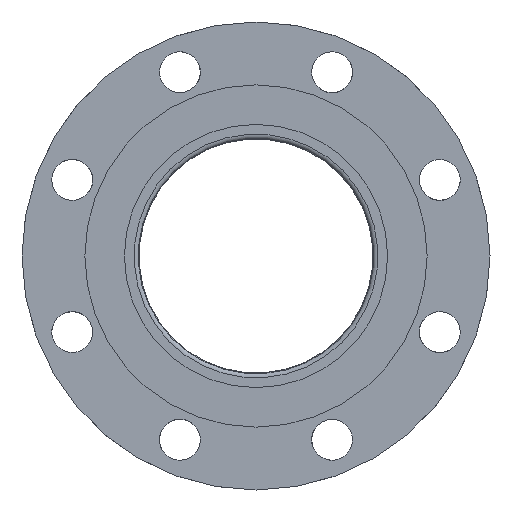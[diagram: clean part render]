
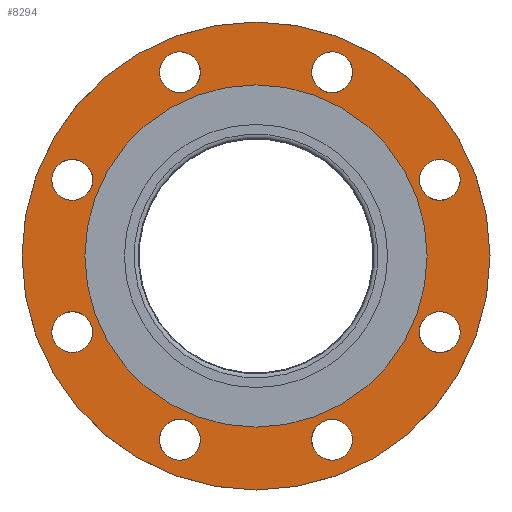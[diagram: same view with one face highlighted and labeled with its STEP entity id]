
A CAD part, front view. The second image highlights one B-rep face of the part: STEP entity #8294.
In plain terms, the highlighted planar face has unit normal (0, -1, 0) as drawn and (0, 1, 0) by its records, which use the part's own axes.
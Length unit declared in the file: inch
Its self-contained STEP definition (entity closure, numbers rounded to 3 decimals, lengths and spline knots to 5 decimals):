
#7955=CARTESIAN_POINT('',(-1.31705,0.6875,4.23585));
#7956=VERTEX_POINT('',#7955);
#7957=CARTESIAN_POINT('',(-1.6264,0.6875,3.92649));
#7958=DIRECTION('',(0.0,-1.0,0.0));
#7959=DIRECTION('',(0.707,0.0,0.707));
#7960=AXIS2_PLACEMENT_3D('',#7957,#7958,#7959);
#7961=CIRCLE('',#7960,0.4375);
#7962=EDGE_CURVE('',#7956,#7956,#7961,.T.);
#7983=CARTESIAN_POINT('',(-3.92649,0.6875,2.0639));
#7984=VERTEX_POINT('',#7983);
#7985=CARTESIAN_POINT('',(-3.92649,0.6875,1.6264));
#7986=DIRECTION('',(0.0,-1.0,0.0));
#7987=DIRECTION('',(0.0,0.0,1.0));
#7988=AXIS2_PLACEMENT_3D('',#7985,#7986,#7987);
#7989=CIRCLE('',#7988,0.4375);
#7990=EDGE_CURVE('',#7984,#7984,#7989,.T.);
#8011=CARTESIAN_POINT('',(-4.23585,0.6875,-1.31705));
#8012=VERTEX_POINT('',#8011);
#8013=CARTESIAN_POINT('',(-3.92649,0.6875,-1.6264));
#8014=DIRECTION('',(0.0,-1.0,0.0));
#8015=DIRECTION('',(-0.707,0.0,0.707));
#8016=AXIS2_PLACEMENT_3D('',#8013,#8014,#8015);
#8017=CIRCLE('',#8016,0.4375);
#8018=EDGE_CURVE('',#8012,#8012,#8017,.T.);
#8039=CARTESIAN_POINT('',(-2.0639,0.6875,-3.92649));
#8040=VERTEX_POINT('',#8039);
#8041=CARTESIAN_POINT('',(-1.6264,0.6875,-3.92649));
#8042=DIRECTION('',(0.0,-1.0,0.0));
#8043=DIRECTION('',(-1.0,0.0,0.0));
#8044=AXIS2_PLACEMENT_3D('',#8041,#8042,#8043);
#8045=CIRCLE('',#8044,0.4375);
#8046=EDGE_CURVE('',#8040,#8040,#8045,.T.);
#8067=CARTESIAN_POINT('',(1.31705,0.6875,-4.23585));
#8068=VERTEX_POINT('',#8067);
#8069=CARTESIAN_POINT('',(1.6264,0.6875,-3.92649));
#8070=DIRECTION('',(0.0,-1.0,0.0));
#8071=DIRECTION('',(-0.707,0.0,-0.707));
#8072=AXIS2_PLACEMENT_3D('',#8069,#8070,#8071);
#8073=CIRCLE('',#8072,0.4375);
#8074=EDGE_CURVE('',#8068,#8068,#8073,.T.);
#8095=CARTESIAN_POINT('',(3.92649,0.6875,-2.0639));
#8096=VERTEX_POINT('',#8095);
#8097=CARTESIAN_POINT('',(3.92649,0.6875,-1.6264));
#8098=DIRECTION('',(0.0,-1.0,0.0));
#8099=DIRECTION('',(0.0,0.0,-1.0));
#8100=AXIS2_PLACEMENT_3D('',#8097,#8098,#8099);
#8101=CIRCLE('',#8100,0.4375);
#8102=EDGE_CURVE('',#8096,#8096,#8101,.T.);
#8123=CARTESIAN_POINT('',(4.23585,0.6875,1.31705));
#8124=VERTEX_POINT('',#8123);
#8125=CARTESIAN_POINT('',(3.92649,0.6875,1.6264));
#8126=DIRECTION('',(0.0,-1.0,0.0));
#8127=DIRECTION('',(0.707,0.0,-0.707));
#8128=AXIS2_PLACEMENT_3D('',#8125,#8126,#8127);
#8129=CIRCLE('',#8128,0.4375);
#8130=EDGE_CURVE('',#8124,#8124,#8129,.T.);
#8151=CARTESIAN_POINT('',(2.0639,0.6875,3.92649));
#8152=VERTEX_POINT('',#8151);
#8153=CARTESIAN_POINT('',(1.6264,0.6875,3.92649));
#8154=DIRECTION('',(0.0,-1.0,0.0));
#8155=DIRECTION('',(1.0,0.0,0.0));
#8156=AXIS2_PLACEMENT_3D('',#8153,#8154,#8155);
#8157=CIRCLE('',#8156,0.4375);
#8158=EDGE_CURVE('',#8152,#8152,#8157,.T.);
#8179=CARTESIAN_POINT('',(3.65625,0.6875,0.));
#8180=VERTEX_POINT('',#8179);
#8181=CARTESIAN_POINT('',(0.0,0.6875,0.0));
#8182=DIRECTION('',(0.0,-1.0,0.0));
#8183=DIRECTION('',(-1.0,0.0,0.0));
#8184=AXIS2_PLACEMENT_3D('',#8181,#8182,#8183);
#8185=CIRCLE('',#8184,3.65625);
#8186=EDGE_CURVE('',#8180,#8180,#8185,.T.);
#8236=CARTESIAN_POINT('',(-5.0,0.6875,0.));
#8237=VERTEX_POINT('',#8236);
#8238=CARTESIAN_POINT('',(0.0,0.6875,0.0));
#8239=DIRECTION('',(0.0,-1.0,0.0));
#8240=DIRECTION('',(1.0,0.0,0.0));
#8241=AXIS2_PLACEMENT_3D('',#8238,#8239,#8240);
#8242=CIRCLE('',#8241,5.0);
#8243=EDGE_CURVE('',#8237,#8237,#8242,.T.);
#8259=CARTESIAN_POINT('',(0.0,0.6875,0.0));
#8260=DIRECTION('',(0.0,-1.0,0.0));
#8261=DIRECTION('',(0.0,0.0,-1.0));
#8262=AXIS2_PLACEMENT_3D('',#8259,#8260,#8261);
#8263=PLANE('',#8262);
#8264=ORIENTED_EDGE('',*,*,#8243,.F.);
#8265=EDGE_LOOP('',(#8264));
#8266=FACE_OUTER_BOUND('',#8265,.T.);
#8267=ORIENTED_EDGE('',*,*,#7962,.T.);
#8268=EDGE_LOOP('',(#8267));
#8269=FACE_BOUND('',#8268,.T.);
#8270=ORIENTED_EDGE('',*,*,#7990,.T.);
#8271=EDGE_LOOP('',(#8270));
#8272=FACE_BOUND('',#8271,.T.);
#8273=ORIENTED_EDGE('',*,*,#8018,.T.);
#8274=EDGE_LOOP('',(#8273));
#8275=FACE_BOUND('',#8274,.T.);
#8276=ORIENTED_EDGE('',*,*,#8046,.T.);
#8277=EDGE_LOOP('',(#8276));
#8278=FACE_BOUND('',#8277,.T.);
#8279=ORIENTED_EDGE('',*,*,#8074,.T.);
#8280=EDGE_LOOP('',(#8279));
#8281=FACE_BOUND('',#8280,.T.);
#8282=ORIENTED_EDGE('',*,*,#8102,.T.);
#8283=EDGE_LOOP('',(#8282));
#8284=FACE_BOUND('',#8283,.T.);
#8285=ORIENTED_EDGE('',*,*,#8130,.T.);
#8286=EDGE_LOOP('',(#8285));
#8287=FACE_BOUND('',#8286,.T.);
#8288=ORIENTED_EDGE('',*,*,#8158,.T.);
#8289=EDGE_LOOP('',(#8288));
#8290=FACE_BOUND('',#8289,.T.);
#8291=ORIENTED_EDGE('',*,*,#8186,.T.);
#8292=EDGE_LOOP('',(#8291));
#8293=FACE_BOUND('',#8292,.T.);
#8294=ADVANCED_FACE('',(#8266,#8269,#8272,#8275,#8278,#8281,#8284,#8287,#8290,#8293),#8263,.F.);
